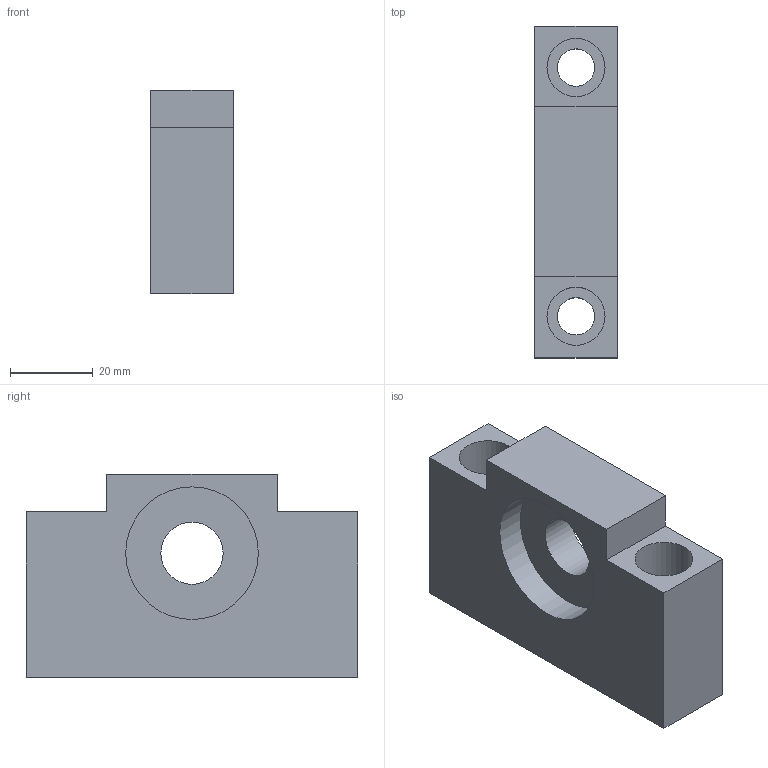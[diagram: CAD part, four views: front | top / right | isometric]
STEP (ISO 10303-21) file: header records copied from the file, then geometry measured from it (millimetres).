
FILE_DESCRIPTION(/* description */ (''),/* implementation_level */ '2;1');
FILE_NAME(/* name */ 'AF15-STP.stp',/* time_stamp */ '2019-11-18T10:54:34+08:00',/* author */ (''),/* organization */ (''),/* preprocessor_version */ 'ST-DEVELOPER v14',/* originating_system */ 'SIEMENS PLM Software NX 8.0',/* authorisation */ '');
FILE_SCHEMA (('AUTOMOTIVE_DESIGN { 1 0 10303 214 3 1 1 1 }'));
Length unit declared in the file: millimetre
Products named in the file (3): 7002; AF15-A; AF15
Assembly tree (2 placements, depth 2):
  AF15
    AF15-A
    7002
Bounding box: 20 x 80 x 49 mm (x, y, z)
Volume: 53866.4 mm3; surface area: 17637.1 mm2
Topology: 2 solids, 2 shells, 21 faces, 47 edges, 32 vertices
Faces by surface type: plane 14, cylinder 7
Full cylindrical faces by diameter (mm): 9 x2, 14 x2, 15 x1, 32 x2
Entity records: 622 total; most frequent: DIRECTION 100, CARTESIAN_POINT 92, ORIENTED_EDGE 76, EDGE_LOOP 38, EDGE_CURVE 38, AXIS2_PLACEMENT_3D 38, FACE_BOUND 33, VERTEX_POINT 30
